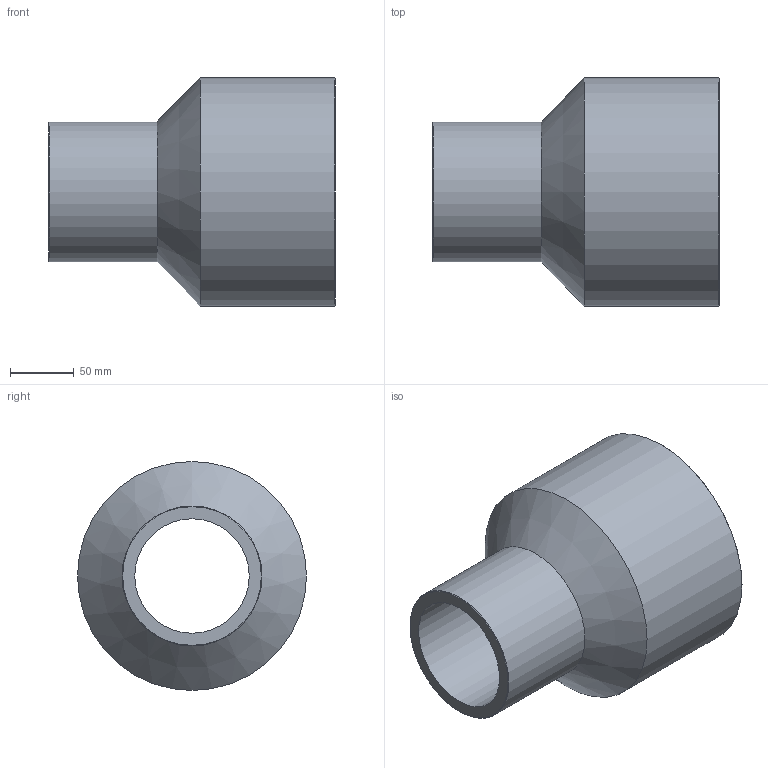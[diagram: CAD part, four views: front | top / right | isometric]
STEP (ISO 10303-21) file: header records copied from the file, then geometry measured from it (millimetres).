
FILE_DESCRIPTION(/* description */ ('Unknown'),/* implementation_level */ '2;1');
FILE_NAME(/* name */ 'RP180110C',/* time_stamp */ '2021-09-17T15:18:00+02:00',/* author */ ('Unknown'),/* organization */ ('Unknown'),/* preprocessor_version */ 'ST-DEVELOPER v16.7',/* originating_system */ 'Solid Edge',/* authorisation */ 'Unknown');
FILE_SCHEMA (('AUTOMOTIVE_DESIGN {1 0 10303 214 3 1 1}'));
Length unit declared in the file: millimetre
Products named in the file (1): RP180110C
Bounding box: 225 x 180 x 180 mm (x, y, z)
Volume: 1441714 mm3; surface area: 210677.6 mm2
Topology: 1 solids, 1 shells, 10 faces, 19 edges, 11 vertices
Faces by surface type: cylinder 4, cone 4, plane 2
Full cylindrical faces by diameter (mm): 90 x1, 110 x1, 147.2 x1, 180 x1
Entity records: 238 total; most frequent: DIRECTION 42, CARTESIAN_POINT 31, AXIS2_PLACEMENT_3D 21, ORIENTED_EDGE 20, EDGE_LOOP 20, FACE_BOUND 20, EDGE_CURVE 10, VERTEX_POINT 10
